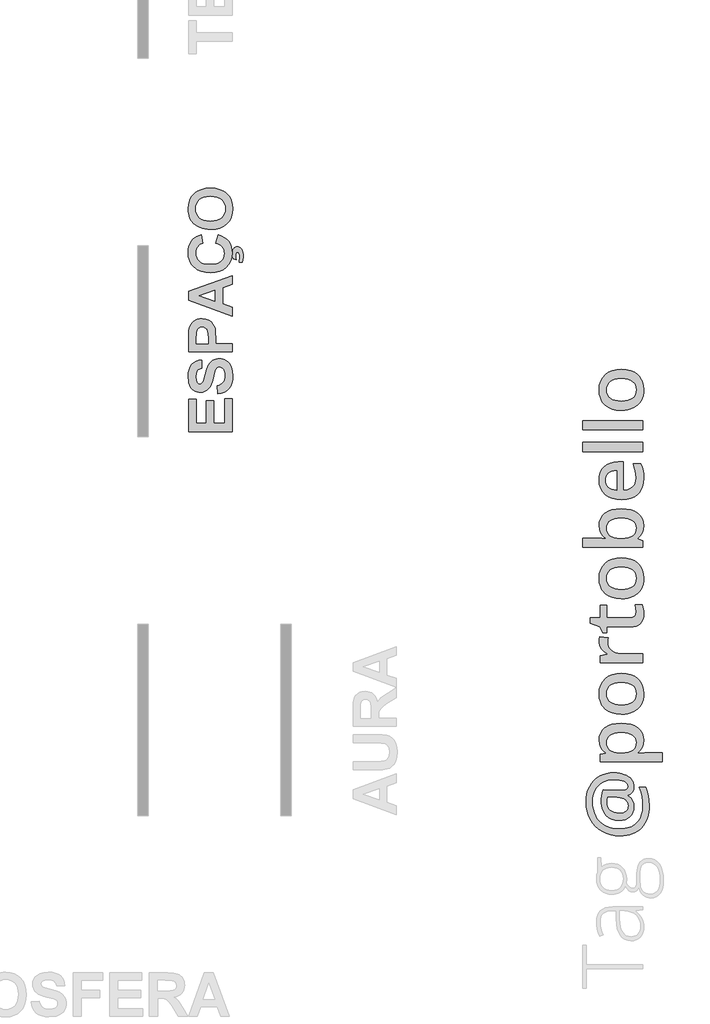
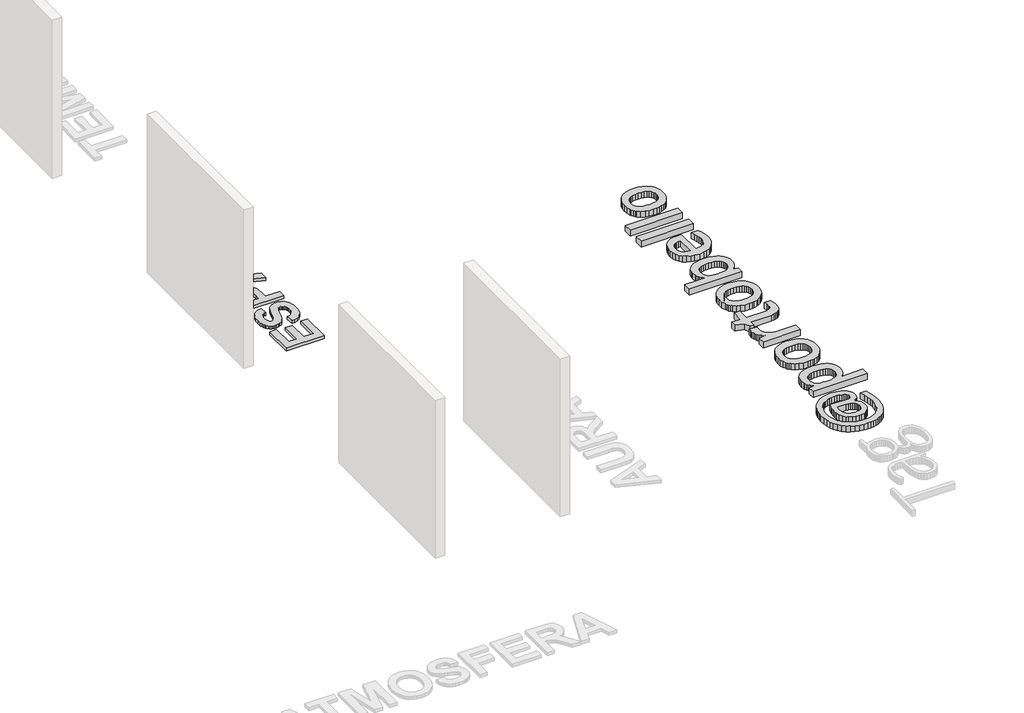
# One storey, part 4 of 9: 3 proxies.
"""IFC4 building model written with IfcOpenShell, lengths in millimetres."""

from ifc_helpers import new_model, si_unit, origin, origin_with_axes, place, context, project, spatial, polyline, outline, extrude, element, save

model = new_model("IFC4")

# Units and contexts
model_context = context("Model", 3, world=origin())
ifc_project = project(units=[si_unit("LENGTHUNIT", "METRE", prefix="MILLI")], contexts=[model_context])

# Site, building, storey
site = spatial("IfcSite", under=ifc_project)
building = spatial("IfcBuilding", under=site)
storey = spatial("IfcBuildingStorey", under=building, Name="PORTOBELLO - SHOWROOM", Elevation=0.0)

# Proxies
placement = place(None, origin())
element("IfcBuildingElementProxy", 1, Name="600mm Arial", ObjectType="600mm Arial", at=placement, inside=storey, context=model_context, shape_type="SweptSolid", body=[
    extrude(outline(polyline([(129012.9424461, -4431.5860734), (128400.7868062, -4431.5860734), (128400.7868062, -3974.8985325), (128507.6711243, -3974.8985325), (128507.6711243, -4314.9849991), (128643.7057109, -4314.9849991), (128643.7057109, -3994.3320449), (128750.590029, -3994.3320449), (128750.590029, -4314.9849991), (128906.0581281, -4314.9849991), (128906.0581281, -3965.1817763), (129012.9424461, -3965.1817763), (129012.9424461, -4431.5860734)])), origin_with_axes(), (0.0, 0.0, 1.0), 50.0),
    extrude(outline(polyline([(128808.8905662, -3897.164483), (128799.17381, -3780.5634087), (128827.2423303, -3773.503578), (128851.3254623, -3763.5590854), (128871.4232061, -3750.7299307), (128887.5355616, -3735.0161141), (128899.8902652, -3716.3701903), (128908.7150536, -3694.7447144), (128914.0099266, -3670.1396862), (128915.7748842, -3642.5551059), (128914.2139405, -3613.5661507), (128909.5311093, -3588.3917814), (128901.7263906, -3567.031998), (128890.7997843, -3549.4868005), (128877.7855938, -3535.8036341), (128863.7181221, -3526.0299438), (128848.5973692, -3520.1657296), (128832.423335, -3518.2109916), (128812.5912838, -3521.4562363), (128795.9095872, -3531.1919705), (128781.8089039, -3549.0503056), (128769.7198928, -3576.663353), (128743.7579348, -3677.7783471), (128731.0900935, -3724.7110386), (128716.9229871, -3764.0904705), (128701.2566155, -3795.9166426), (128684.0909788, -3820.189555), (128657.5122346, -3845.3639243), (128628.1816747, -3863.3456167), (128596.099299, -3874.1346321), (128561.2651076, -3877.7309706), (128538.339636, -3876.0798812), (128516.1732859, -3871.1266129), (128494.7660574, -3862.8711657), (128474.1179505, -3851.3135397), (128455.0545099, -3836.6435152), (128438.4012803, -3819.0508727), (128424.1582617, -3798.535612), (128412.3254541, -3775.0977333), (128403.0262148, -3748.9175279), (128396.383901, -3720.1752872), (128391.07005, -3655.0046998), (128394.3817179, -3601.0928343), (128404.3167215, -3554.2882445), (128420.8750609, -3514.5909305), (128444.0567361, -3482.0008923), (128472.7610207, -3456.4137507), (128505.8871886, -3437.7251263), (128543.4352396, -3425.9350193), (128585.4051738, -3421.0434297), (128585.4051738, -3537.6445039), (128563.7369973, -3542.9156544), (128545.3425325, -3550.5305927), (128530.2217796, -3560.4893189), (128518.3747385, -3572.791833), (128509.4408264, -3587.950542), (128503.0594607, -3606.477853), (128497.9543681, -3653.638281), (128503.3820873, -3703.2848321), (128510.1667364, -3723.5533782), (128519.6652452, -3740.785438), (128535.9863591, -3756.0437817), (128557.0140268, -3761.1298963), (128576.865056, -3756.4992547), (128593.6036868, -3742.6073298), (128603.3251875, -3726.6420542), (128613.2080015, -3702.278996), (128633.4575696, -3628.3595324), (128654.5231934, -3549.4678225), (128676.5756752, -3494.2227497), (128703.2777767, -3455.5075493), (128738.2922595, -3426.2054564), (128759.0257675, -3415.444908), (128782.0556184, -3407.7588021), (128807.381812, -3403.1471385), (128835.0043484, -3401.6099173), (128860.7006138, -3403.4270646), (128885.5618455, -3408.8785064), (128909.5880434, -3417.9642428), (128932.7792076, -3430.6842737), (128954.0915459, -3446.730206), (128972.4812661, -3465.7936466), (128987.9483682, -3487.8745955), (129000.4928523, -3512.9730527), (129010.1906304, -3541.2171199), (129017.1176148, -3572.7348989), (129022.6592023, -3645.5915922), (129019.2478997, -3700.0775435), (129009.013992, -3747.8452687), (128991.957479, -3788.894768), (128968.0783609, -3823.2260413), (128937.6613082, -3851.0763142), (128900.9909915, -3872.6828121), (128858.0674108, -3888.045535), (128808.8905662, -3897.164483)])), origin_with_axes(), (0.0, 0.0, 1.0), 50.0),
    extrude(outline(polyline([(129012.9424461, -3304.4423554), (128400.7868062, -3304.4423554), (128400.7868062, -3107.2225696), (128403.0641709, -3014.5717811), (128409.8962651, -2961.0157538), (128418.744776, -2935.8935741), (128431.6261202, -2912.9064238), (128448.5402979, -2892.054303), (128469.4873089, -2873.3372116), (128494.1160596, -2857.893832), (128522.0754562, -2846.8628466), (128553.3654987, -2840.2442553), (128587.9861871, -2838.0380583), (128639.5495203, -2843.219063), (128661.9863074, -2849.695319), (128682.1931749, -2858.7620773), (128716.2777337, -2882.2948462), (128742.1637795, -2911.4451148), (128760.2878072, -2943.6508477), (128771.0863116, -2976.3500097), (128777.5768011, -3031.1965436), (128779.7402976, -3106.1597994), (128779.7402976, -3187.8412811), (129012.9424461, -3187.8412811), (129012.9424461, -3304.4423554)]), holes=[polyline([(128507.6711243, -3187.8412811), (128672.8559795, -3187.8412811), (128672.8559795, -3115.4210826), (128670.5786148, -3050.1935611), (128663.7465206, -3010.8900414), (128652.0370702, -2987.3952286), (128635.1276371, -2969.5938276), (128614.0430353, -2958.3778063), (128589.8080789, -2954.6391325), (128560.8475908, -2959.8960495), (128537.4286901, -2975.6668002), (128520.6521032, -2999.4462836), (128511.6185565, -3028.7293985), (128507.6711243, -3123.9232443), (128507.6711243, -3187.8412811)])]), origin_with_axes(), (0.0, 0.0, 1.0), 50.0),
    extrude(outline(polyline([(129012.9424461, -2225.8824183), (129012.9424461, -2348.4046409), (128876.9078595, -2396.3811246), (128876.9078595, -2627.609557), (129012.9424461, -2674.9787434), (129012.9424461, -2799.1710335), (128400.7868062, -2575.6856411), (128400.7868062, -2451.4933511), (129012.9424461, -2225.8824183)]), holes=[polyline([(128770.0235414, -2433.7299062), (128546.538149, -2512.5267259), (128770.0235414, -2590.2607754), (128770.0235414, -2433.7299062)])]), origin_with_axes(), (0.0, 0.0, 1.0), 50.0),
    extrude(outline(polyline([(128779.7402976, -1769.1948773), (128818.6073223, -1652.5938031), (128864.7097246, -1668.6966695), (128904.4829508, -1689.3732435), (128937.9270008, -1714.623525), (128965.0418746, -1744.4475139), (128985.9983747, -1778.7218531), (129000.9673033, -1817.3231854), (129009.9486604, -1860.2515106), (129012.9424461, -1907.5068287), (129007.8278645, -1965.8927671), (128992.4841196, -2018.8320081), (128966.9112115, -2066.3245517), (128931.1091401, -2108.3703981), (128886.4348353, -2142.7775836), (128834.2452268, -2167.3541447), (128774.5403148, -2182.1000813), (128707.3200991, -2187.0153935), (128636.4371218, -2182.0573807), (128573.942438, -2167.1833423), (128519.8360475, -2142.3932783), (128495.9284624, -2126.2797367), (128474.1179505, -2107.6871887), (128437.784494, -2064.8964543), (128411.8320251, -2015.8524559), (128396.2605438, -1960.5551935), (128391.07005, -1899.0046671), (128395.3495979, -1845.1829472), (128408.1882415, -1796.6750784), (128429.585981, -1753.4810607), (128459.5428163, -1715.600894), (128481.9463918, -1695.8922), (128508.7718505, -1678.8214536), (128540.0191925, -1664.3886546), (128575.6884176, -1652.5938031), (128595.12193, -1769.1948773), (128573.7668911, -1776.5441231), (128554.7935962, -1787.0532125), (128538.2020452, -1800.7221454), (128523.9922382, -1817.5509218), (128512.60067, -1836.9512226), (128504.4638356, -1858.3347286), (128499.5817349, -1881.7014396), (128497.9543681, -1907.0513558), (128500.9101977, -1941.7005113), (128509.7776866, -1972.9241307), (128524.5568348, -2000.7222139), (128545.2476423, -2025.0947611), (128572.5522966, -2044.9220678), (128607.172985, -2059.0844297), (128649.1097076, -2067.5818469), (128698.3624645, -2070.4143192), (128750.4951388, -2067.667248), (128794.5431683, -2059.4260344), (128830.5065531, -2045.6906784), (128858.385293, -2026.4611799), (128879.2421583, -2002.8287763), (128894.1399193, -1975.8847048), (128903.0785759, -1945.6289655), (128906.0581281, -1912.0615582), (128904.1555796, -1887.0722248), (128898.4479342, -1863.8763161), (128888.935192, -1842.4738321), (128875.6173528, -1822.8647729), (128858.2097461, -1805.4761442), (128836.4277014, -1790.7349521), (128810.2712185, -1778.6411965), (128779.7402976, -1769.1948773)])), origin_with_axes(), (0.0, 0.0, 1.0), 50.0),
    extrude(outline(polyline([(129158.693789, -2041.2640507), (129115.2720348, -2041.2640507), (129119.8267642, -1963.3781768), (129117.2077948, -1931.4950706), (129109.3508865, -1909.0250719), (129100.3173397, -1898.8907988), (129089.0064282, -1895.5127078), (129078.6444187, -1898.7199965), (129069.7247401, -1908.3418625), (129063.5758554, -1924.7199105), (129061.5262271, -1948.1957453), (129063.5758554, -1974.9547809), (129069.7247401, -2002.3970259), (129025.39204, -1991.7693238), (129016.0548446, -1958.4059305), (129012.9424461, -1922.6892603), (129018.1993631, -1877.4076582), (129024.7705092, -1859.4069878), (129033.9701138, -1844.4997378), (129045.0580334, -1832.8092655), (129057.2941243, -1824.4589282), (129070.6783866, -1819.4487258), (129085.2108203, -1817.7786583), (129101.1998185, -1819.6195281), (129115.6136395, -1825.1421376), (129128.4522832, -1834.3464867), (129139.7157496, -1847.2325755), (129152.2697226, -1869.2755683), (129161.2368463, -1895.6265761), (129166.6171205, -1926.2855988), (129168.4105452, -1961.2526364), (129165.9813561, -2007.748833), (129158.693789, -2041.2640507)])), origin_with_axes(), (0.0, 0.0, 1.0), 50.0),
    extrude(outline(polyline([(128710.660234, -1574.8597535), (128665.8530829, -1573.142241), (128624.8035836, -1567.9897033), (128587.5117362, -1559.4021404), (128553.9775405, -1547.3795524), (128509.7397306, -1523.1445961), (128470.2464305, -1491.4322922), (128437.9268293, -1454.292269), (128415.2101161, -1413.7741548), (128404.6488372, -1384.6049082), (128397.1050665, -1353.2721651), (128392.5788041, -1319.7759255), (128391.07005, -1284.1161894), (128396.3032444, -1221.0142083), (128412.0028275, -1164.554541), (128438.1687993, -1114.7371875), (128474.80116, -1071.5621478), (128496.7551932, -1052.8806402), (128520.7517379, -1036.6900003), (128574.8723619, -1011.7813236), (128637.1630318, -996.8361175), (128707.6237477, -991.8543821), (128777.6052681, -996.7981614), (128839.5211218, -1011.6294992), (128893.3713087, -1036.3483956), (128917.2717771, -1052.4156782), (128939.1558288, -1070.9548505), (128975.6885547, -1113.8452196), (129001.783359, -1163.4158586), (129017.4402415, -1219.6667675), (129022.6592023, -1282.5979463), (129017.463964, -1346.1933564), (129001.8782492, -1402.9187163), (128975.9020577, -1452.7740259), (128939.5353896, -1495.7592852), (128894.0592626, -1530.3657401), (128840.7546944, -1555.0846365), (128779.6216848, -1569.9159743), (128710.660234, -1574.8597535)]), holes=[polyline([(128706.4091532, -1458.2586793), (128754.8316208, -1455.1605143), (128797.0103135, -1445.8660195), (128832.9452311, -1430.3751948), (128862.6363738, -1408.6880403), (128885.8844721, -1382.2279088), (128902.4902566, -1352.4181533), (128912.4537273, -1319.2587739), (128915.7748842, -1282.7497706), (128912.4774499, -1246.2787233), (128902.5851468, -1213.2332121), (128886.0979751, -1183.6132371), (128863.0159346, -1157.4187982), (128833.3390255, -1135.9973362), (128797.0672476, -1120.6962919), (128754.200601, -1111.5156653), (128704.7390857, -1108.4554564), (128655.9655244, -1111.4350086), (128613.7963208, -1120.3736652), (128578.2314749, -1135.2714261), (128549.2709867, -1156.1282915), (128526.819966, -1181.9194471), (128510.7835227, -1211.6200788), (128501.1616567, -1245.2301866), (128497.9543681, -1282.7497706), (128501.1996128, -1320.3073106), (128510.935347, -1354.0312867), (128527.1615708, -1383.9216988), (128549.878284, -1409.9785469), (128579.1329317, -1431.1011048), (128614.9729592, -1446.1886462), (128657.3983664, -1455.241171), (128706.4091532, -1458.2586793)])]), origin_with_axes(), (0.0, 0.0, 1.0), 50.0),
])
element("IfcBuildingElementProxy", 2, Name="600mm Arial", ObjectType="600mm Arial", at=placement, inside=storey, context=model_context, shape_type="SweptSolid", body=[
    extrude(outline(polyline([(129012.9424461, -4431.5860734), (128400.7868062, -4431.5860734), (128400.7868062, -3974.8985325), (128507.6711243, -3974.8985325), (128507.6711243, -4314.9849991), (128643.7057109, -4314.9849991), (128643.7057109, -3994.3320449), (128750.590029, -3994.3320449), (128750.590029, -4314.9849991), (128906.0581281, -4314.9849991), (128906.0581281, -3965.1817763), (129012.9424461, -3965.1817763), (129012.9424461, -4431.5860734)])), origin_with_axes(), (0.0, 0.0, 1.0), 50.0),
    extrude(outline(polyline([(128808.8905662, -3897.164483), (128799.17381, -3780.5634087), (128827.2423303, -3773.503578), (128851.3254623, -3763.5590854), (128871.4232061, -3750.7299307), (128887.5355616, -3735.0161141), (128899.8902652, -3716.3701903), (128908.7150536, -3694.7447144), (128914.0099266, -3670.1396862), (128915.7748842, -3642.5551059), (128914.2139405, -3613.5661507), (128909.5311093, -3588.3917814), (128901.7263906, -3567.031998), (128890.7997843, -3549.4868005), (128877.7855938, -3535.8036341), (128863.7181221, -3526.0299438), (128848.5973692, -3520.1657296), (128832.423335, -3518.2109916), (128812.5912838, -3521.4562363), (128795.9095872, -3531.1919705), (128781.8089039, -3549.0503056), (128769.7198928, -3576.663353), (128743.7579348, -3677.7783471), (128731.0900935, -3724.7110386), (128716.9229871, -3764.0904705), (128701.2566155, -3795.9166426), (128684.0909788, -3820.189555), (128657.5122346, -3845.3639243), (128628.1816747, -3863.3456167), (128596.099299, -3874.1346321), (128561.2651076, -3877.7309706), (128538.339636, -3876.0798812), (128516.1732859, -3871.1266129), (128494.7660574, -3862.8711657), (128474.1179505, -3851.3135397), (128455.0545099, -3836.6435152), (128438.4012803, -3819.0508727), (128424.1582617, -3798.535612), (128412.3254541, -3775.0977333), (128403.0262148, -3748.9175279), (128396.383901, -3720.1752872), (128391.07005, -3655.0046998), (128394.3817179, -3601.0928343), (128404.3167215, -3554.2882445), (128420.8750609, -3514.5909305), (128444.0567361, -3482.0008923), (128472.7610207, -3456.4137507), (128505.8871886, -3437.7251263), (128543.4352396, -3425.9350193), (128585.4051738, -3421.0434297), (128585.4051738, -3537.6445039), (128563.7369973, -3542.9156544), (128545.3425325, -3550.5305927), (128530.2217796, -3560.4893189), (128518.3747385, -3572.791833), (128509.4408264, -3587.950542), (128503.0594607, -3606.477853), (128497.9543681, -3653.638281), (128503.3820873, -3703.2848321), (128510.1667364, -3723.5533782), (128519.6652452, -3740.785438), (128535.9863591, -3756.0437817), (128557.0140268, -3761.1298963), (128576.865056, -3756.4992547), (128593.6036868, -3742.6073298), (128603.3251875, -3726.6420542), (128613.2080015, -3702.278996), (128633.4575696, -3628.3595324), (128654.5231934, -3549.4678225), (128676.5756752, -3494.2227497), (128703.2777767, -3455.5075493), (128738.2922595, -3426.2054564), (128759.0257675, -3415.444908), (128782.0556184, -3407.7588021), (128807.381812, -3403.1471385), (128835.0043484, -3401.6099173), (128860.7006138, -3403.4270646), (128885.5618455, -3408.8785064), (128909.5880434, -3417.9642428), (128932.7792076, -3430.6842737), (128954.0915459, -3446.730206), (128972.4812661, -3465.7936466), (128987.9483682, -3487.8745955), (129000.4928523, -3512.9730527), (129010.1906304, -3541.2171199), (129017.1176148, -3572.7348989), (129022.6592023, -3645.5915922), (129019.2478997, -3700.0775435), (129009.013992, -3747.8452687), (128991.957479, -3788.894768), (128968.0783609, -3823.2260413), (128937.6613082, -3851.0763142), (128900.9909915, -3872.6828121), (128858.0674108, -3888.045535), (128808.8905662, -3897.164483)])), origin_with_axes(), (0.0, 0.0, 1.0), 50.0),
    extrude(outline(polyline([(129012.9424461, -3304.4423554), (128400.7868062, -3304.4423554), (128400.7868062, -3107.2225696), (128403.0641709, -3014.5717811), (128409.8962651, -2961.0157538), (128418.744776, -2935.8935741), (128431.6261202, -2912.9064238), (128448.5402979, -2892.054303), (128469.4873089, -2873.3372116), (128494.1160596, -2857.893832), (128522.0754562, -2846.8628466), (128553.3654987, -2840.2442553), (128587.9861871, -2838.0380583), (128639.5495203, -2843.219063), (128661.9863074, -2849.695319), (128682.1931749, -2858.7620773), (128716.2777337, -2882.2948462), (128742.1637795, -2911.4451148), (128760.2878072, -2943.6508477), (128771.0863116, -2976.3500097), (128777.5768011, -3031.1965436), (128779.7402976, -3106.1597994), (128779.7402976, -3187.8412811), (129012.9424461, -3187.8412811), (129012.9424461, -3304.4423554)]), holes=[polyline([(128507.6711243, -3187.8412811), (128672.8559795, -3187.8412811), (128672.8559795, -3115.4210826), (128670.5786148, -3050.1935611), (128663.7465206, -3010.8900414), (128652.0370702, -2987.3952286), (128635.1276371, -2969.5938276), (128614.0430353, -2958.3778063), (128589.8080789, -2954.6391325), (128560.8475908, -2959.8960495), (128537.4286901, -2975.6668002), (128520.6521032, -2999.4462836), (128511.6185565, -3028.7293985), (128507.6711243, -3123.9232443), (128507.6711243, -3187.8412811)])]), origin_with_axes(), (0.0, 0.0, 1.0), 50.0),
    extrude(outline(polyline([(129012.9424461, -2225.8824183), (129012.9424461, -2348.4046409), (128876.9078595, -2396.3811246), (128876.9078595, -2627.609557), (129012.9424461, -2674.9787434), (129012.9424461, -2799.1710335), (128400.7868062, -2575.6856411), (128400.7868062, -2451.4933511), (129012.9424461, -2225.8824183)]), holes=[polyline([(128770.0235414, -2433.7299062), (128546.538149, -2512.5267259), (128770.0235414, -2590.2607754), (128770.0235414, -2433.7299062)])]), origin_with_axes(), (0.0, 0.0, 1.0), 50.0),
    extrude(outline(polyline([(128779.7402976, -1769.1948773), (128818.6073223, -1652.5938031), (128864.7097246, -1668.6966695), (128904.4829508, -1689.3732435), (128937.9270008, -1714.623525), (128965.0418746, -1744.4475139), (128985.9983747, -1778.7218531), (129000.9673033, -1817.3231854), (129009.9486604, -1860.2515106), (129012.9424461, -1907.5068287), (129007.8278645, -1965.8927671), (128992.4841196, -2018.8320081), (128966.9112115, -2066.3245517), (128931.1091401, -2108.3703981), (128886.4348353, -2142.7775836), (128834.2452268, -2167.3541447), (128774.5403148, -2182.1000813), (128707.3200991, -2187.0153935), (128636.4371218, -2182.0573807), (128573.942438, -2167.1833423), (128519.8360475, -2142.3932783), (128495.9284624, -2126.2797367), (128474.1179505, -2107.6871887), (128437.784494, -2064.8964543), (128411.8320251, -2015.8524559), (128396.2605438, -1960.5551935), (128391.07005, -1899.0046671), (128395.3495979, -1845.1829472), (128408.1882415, -1796.6750784), (128429.585981, -1753.4810607), (128459.5428163, -1715.600894), (128481.9463918, -1695.8922), (128508.7718505, -1678.8214536), (128540.0191925, -1664.3886546), (128575.6884176, -1652.5938031), (128595.12193, -1769.1948773), (128573.7668911, -1776.5441231), (128554.7935962, -1787.0532125), (128538.2020452, -1800.7221454), (128523.9922382, -1817.5509218), (128512.60067, -1836.9512226), (128504.4638356, -1858.3347286), (128499.5817349, -1881.7014396), (128497.9543681, -1907.0513558), (128500.9101977, -1941.7005113), (128509.7776866, -1972.9241307), (128524.5568348, -2000.7222139), (128545.2476423, -2025.0947611), (128572.5522966, -2044.9220678), (128607.172985, -2059.0844297), (128649.1097076, -2067.5818469), (128698.3624645, -2070.4143192), (128750.4951388, -2067.667248), (128794.5431683, -2059.4260344), (128830.5065531, -2045.6906784), (128858.385293, -2026.4611799), (128879.2421583, -2002.8287763), (128894.1399193, -1975.8847048), (128903.0785759, -1945.6289655), (128906.0581281, -1912.0615582), (128904.1555796, -1887.0722248), (128898.4479342, -1863.8763161), (128888.935192, -1842.4738321), (128875.6173528, -1822.8647729), (128858.2097461, -1805.4761442), (128836.4277014, -1790.7349521), (128810.2712185, -1778.6411965), (128779.7402976, -1769.1948773)])), origin_with_axes(), (0.0, 0.0, 1.0), 50.0),
    extrude(outline(polyline([(129158.693789, -2041.2640507), (129115.2720348, -2041.2640507), (129119.8267642, -1963.3781768), (129117.2077948, -1931.4950706), (129109.3508865, -1909.0250719), (129100.3173397, -1898.8907988), (129089.0064282, -1895.5127078), (129078.6444187, -1898.7199965), (129069.7247401, -1908.3418625), (129063.5758554, -1924.7199105), (129061.5262271, -1948.1957453), (129063.5758554, -1974.9547809), (129069.7247401, -2002.3970259), (129025.39204, -1991.7693238), (129016.0548446, -1958.4059305), (129012.9424461, -1922.6892603), (129018.1993631, -1877.4076582), (129024.7705092, -1859.4069878), (129033.9701138, -1844.4997378), (129045.0580334, -1832.8092655), (129057.2941243, -1824.4589282), (129070.6783866, -1819.4487258), (129085.2108203, -1817.7786583), (129101.1998185, -1819.6195281), (129115.6136395, -1825.1421376), (129128.4522832, -1834.3464867), (129139.7157496, -1847.2325755), (129152.2697226, -1869.2755683), (129161.2368463, -1895.6265761), (129166.6171205, -1926.2855988), (129168.4105452, -1961.2526364), (129165.9813561, -2007.748833), (129158.693789, -2041.2640507)])), origin_with_axes(), (0.0, 0.0, 1.0), 50.0),
    extrude(outline(polyline([(128710.660234, -1574.8597535), (128665.8530829, -1573.142241), (128624.8035836, -1567.9897033), (128587.5117362, -1559.4021404), (128553.9775405, -1547.3795524), (128509.7397306, -1523.1445961), (128470.2464305, -1491.4322922), (128437.9268293, -1454.292269), (128415.2101161, -1413.7741548), (128404.6488372, -1384.6049082), (128397.1050665, -1353.2721651), (128392.5788041, -1319.7759255), (128391.07005, -1284.1161894), (128396.3032444, -1221.0142083), (128412.0028275, -1164.554541), (128438.1687993, -1114.7371875), (128474.80116, -1071.5621478), (128496.7551932, -1052.8806402), (128520.7517379, -1036.6900003), (128574.8723619, -1011.7813236), (128637.1630318, -996.8361175), (128707.6237477, -991.8543821), (128777.6052681, -996.7981614), (128839.5211218, -1011.6294992), (128893.3713087, -1036.3483956), (128917.2717771, -1052.4156782), (128939.1558288, -1070.9548505), (128975.6885547, -1113.8452196), (129001.783359, -1163.4158586), (129017.4402415, -1219.6667675), (129022.6592023, -1282.5979463), (129017.463964, -1346.1933564), (129001.8782492, -1402.9187163), (128975.9020577, -1452.7740259), (128939.5353896, -1495.7592852), (128894.0592626, -1530.3657401), (128840.7546944, -1555.0846365), (128779.6216848, -1569.9159743), (128710.660234, -1574.8597535)]), holes=[polyline([(128706.4091532, -1458.2586793), (128754.8316208, -1455.1605143), (128797.0103135, -1445.8660195), (128832.9452311, -1430.3751948), (128862.6363738, -1408.6880403), (128885.8844721, -1382.2279088), (128902.4902566, -1352.4181533), (128912.4537273, -1319.2587739), (128915.7748842, -1282.7497706), (128912.4774499, -1246.2787233), (128902.5851468, -1213.2332121), (128886.0979751, -1183.6132371), (128863.0159346, -1157.4187982), (128833.3390255, -1135.9973362), (128797.0672476, -1120.6962919), (128754.200601, -1111.5156653), (128704.7390857, -1108.4554564), (128655.9655244, -1111.4350086), (128613.7963208, -1120.3736652), (128578.2314749, -1135.2714261), (128549.2709867, -1156.1282915), (128526.819966, -1181.9194471), (128510.7835227, -1211.6200788), (128501.1616567, -1245.2301866), (128497.9543681, -1282.7497706), (128501.1996128, -1320.3073106), (128510.935347, -1354.0312867), (128527.1615708, -1383.9216988), (128549.878284, -1409.9785469), (128579.1329317, -1431.1011048), (128614.9729592, -1446.1886462), (128657.3983664, -1455.241171), (128706.4091532, -1458.2586793)])]), origin_with_axes(), (0.0, 0.0, 1.0), 50.0),
])
element("IfcBuildingElementProxy", 3, Name="80mm OpenSans Bold", ObjectType="80mm OpenSans Bold", at=placement, inside=storey, context=model_context, shape_type="SweptSolid", body=[
    extrude(outline(polyline([(134409.9362076, -9249.9050274), (134448.0418223, -9251.4523873), (134484.4798938, -9256.0944669), (134519.2504222, -9263.8312662), (134552.3534074, -9274.6627853), (134582.8348945, -9288.3035888), (134609.7409288, -9304.4682415), (134633.0715101, -9323.1567432), (134652.8266386, -9344.369094), (134668.5481153, -9367.7146983), (134679.7777416, -9392.8029603), (134686.5155173, -9419.63388), (134688.7614425, -9448.2074574), (134683.0527362, -9488.8294097), (134675.9168533, -9506.9770867), (134665.9266173, -9523.6825641), (134653.5026696, -9538.3599485), (134639.0656518, -9550.4233463), (134622.6155638, -9559.8727576), (134604.1524057, -9566.7081822), (134604.1524057, -9573.4384465), (134641.1688593, -9603.6044526), (134667.6091833, -9640.2603563), (134683.4733777, -9682.6249663), (134688.7614425, -9729.9170913), (134685.208524, -9772.5821596), (134674.5497684, -9810.4398962), (134656.7851757, -9843.4903012), (134631.9147459, -9871.7333746), (134600.97506, -9894.3428562), (134565.0026987, -9910.4924859), (134523.9976622, -9920.1822637), (134477.9599503, -9923.4121897), (134424.8164013, -9919.1306599), (134376.9158484, -9906.2860707), (134334.2582916, -9884.878422), (134296.8437309, -9854.9077139), (134266.399801, -9817.7260082), (134244.6541368, -9774.6853672), (134231.6067383, -9725.7857907), (134227.2576054, -9671.0272788), (134229.0904006, -9626.7096902), (134234.5887862, -9577.8852283), (134243.3321206, -9529.6616828), (134254.8997623, -9487.1468437), (134506.0828404, -9499.4055393), (134518.8222692, -9499.4055393), (134556.6800058, -9495.8000406), (134583.7212463, -9484.9835444), (134593.1856804, -9476.8711723), (134599.9459906, -9466.9560508), (134605.3542387, -9441.7175597), (134601.8914576, -9420.9634076), (134591.5031144, -9402.4476694), (134574.189209, -9386.1703449), (134549.9497415, -9372.1314342), (134520.3470947, -9360.8266934), (134486.9436513, -9352.7518786), (134449.7394113, -9347.9069897), (134408.7343747, -9346.2920267), (134363.6431063, -9348.7107154), (134321.391168, -9355.9667816), (134281.9785601, -9368.0602253), (134245.4052824, -9384.9910464), (134212.2647399, -9406.3836722), (134183.1503377, -9431.8625298), (134158.0620757, -9461.4276194), (134136.999954, -9495.0789409), (134120.3320338, -9532.0803715), (134108.4263765, -9571.6957888), (134101.2829822, -9613.9251927), (134098.9018507, -9658.7685831), (134101.8914101, -9715.7429744), (134110.8600882, -9768.8865234), (134125.807885, -9818.1992299), (134146.7348005, -9863.6810941), (134173.2126818, -9904.6711078), (134204.8133759, -9940.5082628), (134241.5368827, -9971.1925593), (134283.3832023, -9996.7239971), (134329.5711433, -10016.8096296), (134379.3195143, -10031.15651), (134432.6283152, -10039.7646382), (134489.4975462, -10042.6340143), (134563.6731711, -10037.2783464), (134628.7599346, -10021.2113427), (134657.8949933, -10009.1610899), (134684.7578367, -9994.4330032), (134709.3484647, -9977.0270825), (134731.6668774, -9956.9433278), (134751.5252884, -9934.3582585), (134768.7359112, -9909.4483936), (134783.2987459, -9882.2137331), (134795.2137925, -9852.6542772), (134811.1005212, -9786.5609786), (134816.3960975, -9711.1684979), (134813.3013778, -9649.454378), (134804.0172185, -9586.418242), (134788.5436198, -9522.0600897), (134766.8805816, -9456.3799212), (134857.0180498, -9456.3799212), (134877.6294842, -9515.6002378), (134892.3519374, -9577.4044951), (134901.1854092, -9641.7926932), (134904.1298999, -9708.7648321), (134902.4341887, -9758.3798747), (134897.3470554, -9805.1893887), (134888.8684998, -9849.1933739), (134876.9985219, -9890.3918305), (134861.7371219, -9928.7847584), (134843.0842995, -9964.3721575), (134821.040055, -9997.154028), (134795.6043882, -10027.1303697), (134767.1340933, -10053.9180986), (134735.9859644, -10077.1341302), (134702.1600016, -10096.7784647), (134665.6562049, -10112.851102), (134626.4745742, -10125.3520421), (134584.6151095, -10134.281285), (134540.0778109, -10139.6388308), (134492.8626784, -10141.4246794), (134423.7948434, -10137.5637912), (134358.6479882, -10125.9811265), (134297.422113, -10106.6766854), (134240.1172176, -10079.6504679), (134188.0177609, -10045.7738027), (134142.408202, -10005.9180189), (134103.2885409, -9960.0831163), (134070.6587774, -9908.269095), (134044.9470646, -9851.6477421), (134026.5815554, -9791.3908446), (134015.5622499, -9727.4984026), (134011.8891481, -9659.970416), (134014.953822, -9601.749123), (134024.1478438, -9546.7878018), (134039.4712134, -9495.0864523), (134060.9239308, -9446.6450746), (134088.0402858, -9402.4626923), (134120.3545682, -9363.5383289), (134157.8667778, -9329.8719846), (134200.5769149, -9301.4636592), (134247.6436962, -9278.9067578), (134298.2258387, -9262.7946853), (134352.3233425, -9253.1274419), (134409.9362076, -9249.9050274)]), holes=[polyline([(134479.8828829, -9818.1316268), (134509.2902319, -9816.542954), (134534.7766011, -9811.7769353), (134556.3419903, -9803.8335709), (134573.9863997, -9792.7128608), (134587.7098293, -9778.4148049), (134597.5122789, -9760.9394033), (134603.3937487, -9740.2866559), (134605.3542387, -9716.4565627), (134602.8904812, -9691.1730029), (134595.4992088, -9668.9240712), (134583.1804215, -9649.7097675), (134565.9341192, -9633.530092), (134543.7603021, -9620.3850445), (134516.65897, -9610.2746252), (134484.6301229, -9603.1988339), (134447.673761, -9599.1576708), (134319.0776397, -9592.4274065), (134312.2271921, -9628.7227604), (134309.9437096, -9667.42178), (134312.8055742, -9701.0355442), (134321.391168, -9730.7283285), (134335.7004911, -9756.500133), (134355.7335434, -9778.3509575), (134380.6640648, -9795.7550004), (134409.6657952, -9808.1864595), (134442.7387346, -9815.645335), (134479.8828829, -9818.1316268)])]), origin_with_axes(), (0.0, 0.0, 1.0), 100.0),
    extrude(outline(polyline([(134827.2125937, -8791.2855893), (134822.0146663, -8844.8422683), (134806.4208844, -8892.0592787), (134780.4312477, -8932.9366205), (134744.0457564, -8967.4742937), (134744.0457564, -8975.1660244), (134838.0290899, -8967.4742937), (135088.7314347, -8967.4742937), (135088.7314347, -9096.3107816), (134211.8741442, -9096.3107816), (134211.8741442, -8991.9916851), (134289.031817, -8973.9641914), (134289.031817, -8967.4742937), (134267.3424887, -8951.6439009), (134248.5450708, -8933.9581785), (134232.6395634, -8914.4171265), (134219.6259665, -8893.020745), (134209.5042799, -8869.769034), (134202.2745038, -8844.6619933), (134196.490683, -8788.8819234), (134201.651053, -8736.07639), (134217.1321632, -8689.4302502), (134242.9340134, -8648.9435041), (134279.0566038, -8614.6161516), (134324.4933992, -8587.2744529), (134378.2378646, -8567.7446682), (134440.29, -8556.0267973), (134510.6498054, -8552.1208403), (134581.1823743, -8556.0944004), (134643.5124335, -8568.0150806), (134697.6399832, -8587.8828808), (134743.5650232, -8615.6978012), (134780.1608353, -8650.5133983), (134806.3007011, -8691.3832287), (134821.9846205, -8738.3072923), (134827.2125937, -8791.2855893)]), holes=[polyline([(134304.1749116, -8822.7736115), (134306.9691731, -8857.859621), (134315.3519577, -8887.8829093), (134329.3232652, -8912.8434766), (134348.8830958, -8932.7413227), (134374.5722743, -8947.9369975), (134406.9316254, -8958.791051), (134445.9611491, -8965.303483), (134491.6608454, -8967.4742937), (134510.6498054, -8967.4742937), (134561.9981165, -8965.3260174), (134605.7147885, -8958.8811884), (134641.7998216, -8948.1398068), (134670.2532157, -8933.1018725), (134691.8110936, -8913.1814921), (134707.2095777, -8887.7927719), (134716.4486682, -8856.9357119), (134719.528365, -8820.6103122), (134716.1181641, -8789.6856492), (134705.8875615, -8762.5317369), (134688.8365571, -8739.1485754), (134664.9651509, -8719.5361646), (134634.7991449, -8704.0250086), (134598.8643409, -8692.9456115), (134557.160739, -8686.2979732), (134509.6883391, -8684.0820938), (134462.0581986, -8686.2829503), (134420.6024747, -8692.8855198), (134385.3211674, -8703.8898024), (134356.2142766, -8719.295798), (134333.4470544, -8738.9683004), (134317.1847529, -8762.7721035), (134307.4273719, -8790.7072072), (134304.1749116, -8822.7736115)])]), origin_with_axes(), (0.0, 0.0, 1.0), 100.0),
    extrude(outline(polyline([(134510.6498054, -7844.0008903), (134581.1823743, -7848.8082219), (134643.5124335, -7863.2302168), (134697.6399832, -7887.266875), (134743.5650232, -7920.9181964), (134763.1699225, -7941.0902107), (134780.1608353, -7963.1476003), (134794.5377615, -7987.0903653), (134806.3007011, -8012.9185056), (134821.9846205, -8070.2309125), (134827.2125937, -8135.0848209), (134824.8014164, -8176.7358426), (134817.5678846, -8215.8780382), (134805.5119982, -8252.5114075), (134788.6337573, -8286.6359507), (134767.2561544, -8317.6131939), (134741.7021822, -8344.8046635), (134711.9718406, -8368.2103594), (134678.0651297, -8387.8302817), (134640.6055002, -8403.3414376), (134600.216403, -8414.4208348), (134556.897838, -8421.068473), (134510.6498054, -8423.2843525), (134440.6805957, -8418.5145781), (134378.8387811, -8404.205255), (134325.1243615, -8380.3563833), (134279.537337, -8346.9679627), (134260.0732774, -8326.9104982), (134243.2044258, -8304.8962995), (134228.9307822, -8280.9253665), (134217.2523465, -8254.9976994), (134201.6810988, -8197.2721625), (134196.490683, -8131.7196887), (134201.8087936, -8068.8262703), (134217.7631255, -8012.8283682), (134244.3536786, -7963.7259824), (134281.5804529, -7921.5191129), (134327.8059512, -7887.6048905), (134381.392676, -7863.3804459), (134442.3406274, -7848.8457792), (134510.6498054, -7844.0008903)]), holes=[polyline([(134510.6498054, -8290.6019993), (134559.6057178, -8288.1382418), (134602.0341752, -8280.7469694), (134637.9351777, -8268.4281821), (134667.3087251, -8251.1818799), (134690.1548176, -8229.0080627), (134706.473455, -8201.9067306), (134716.2646375, -8169.8778836), (134719.528365, -8132.9215216), (134716.2646375, -8096.3031752), (134706.473455, -8064.5672749), (134690.1548176, -8037.7138209), (134667.3087251, -8015.742813), (134637.9351777, -7998.6542513), (134602.0341752, -7986.4481358), (134559.6057178, -7979.1244665), (134510.6498054, -7976.6832434), (134462.2572522, -7979.1394894), (134420.3170394, -7986.5082275), (134384.829167, -7998.7894575), (134355.7936351, -8015.9831796), (134333.2104436, -8038.0893936), (134317.0795925, -8065.1080997), (134307.4010818, -8097.0392978), (134304.1749116, -8133.882988), (134307.5099979, -8172.2740379), (134317.5152569, -8205.0014503), (134334.1906885, -8232.0652252), (134357.5362928, -8253.4653624), (134387.1164053, -8269.7126411), (134422.4953615, -8281.3178401), (134463.6731616, -8288.2809595), (134510.6498054, -8290.6019993)])]), origin_with_axes(), (0.0, 0.0, 1.0), 100.0),
    extrude(outline(polyline([(134196.490683, -7393.3135493), (134197.8727908, -7358.6406699), (134202.0191143, -7330.5778715), (134322.2024053, -7342.8365671), (134317.154707, -7370.2383575), (134315.472141, -7398.6016141), (134318.6119294, -7434.6566014), (134328.0312949, -7467.10609), (134343.7302372, -7495.9500798), (134365.7087566, -7521.1885709), (134392.7049283, -7541.6948449), (134423.4568279, -7556.3421835), (134457.9644553, -7565.1305866), (134496.2278105, -7568.0600543), (134811.8291324, -7568.0600543), (134811.8291324, -7696.8965422), (134211.8741442, -7696.8965422), (134211.8741442, -7595.9425778), (134314.0299415, -7578.8765505), (134314.0299415, -7572.3866528), (134288.3858318, -7556.5900615), (134265.5359836, -7538.5250106), (134245.4803969, -7518.1915), (134228.2190718, -7495.5895299), (134214.3379017, -7471.3951311), (134204.4227802, -7446.2843348), (134198.4737073, -7420.2571409), (134196.490683, -7393.3135493)])), origin_with_axes(), (0.0, 0.0, 1.0), 100.0),
    extrude(outline(polyline([(134719.528365, -6974.3545972), (134715.8627746, -6926.4615558), (134704.8660035, -6878.4483311), (134804.618135, -6878.4483311), (134813.4516069, -6903.206089), (134820.722696, -6934.213378), (134825.5901193, -6968.9463491), (134827.2125937, -7004.8811531), (134824.1779656, -7048.2598097), (134815.0740813, -7085.8546453), (134799.9009408, -7117.6656602), (134778.6585442, -7143.6928541), (134751.3468913, -7163.9362272), (134717.9659822, -7178.3957794), (134678.515817, -7187.0715107), (134632.9963956, -7189.9634211), (134304.1749116, -7189.9634211), (134304.1749116, -7273.6109916), (134250.0924307, -7273.6109916), (134205.3842465, -7183.9542566), (134073.4229931, -7139.9671721), (134073.4229931, -7060.4058335), (134211.8741442, -7060.4058335), (134211.8741442, -6884.6978622), (134304.1749116, -6884.6978622), (134304.1749116, -7060.4058335), (134628.6697971, -7060.4058335), (134650.3553696, -7058.9260767), (134669.021337, -7054.4868064), (134684.6676992, -7047.0880226), (134697.2944562, -7036.7297252), (134707.0217913, -7023.9527391), (134713.9698878, -7009.297889), (134719.528365, -6974.3545972)])), origin_with_axes(), (0.0, 0.0, 1.0), 100.0),
    extrude(outline(polyline([(134510.6498054, -6213.3539991), (134581.1823743, -6218.1613308), (134643.5124335, -6232.5833257), (134697.6399832, -6256.6199839), (134743.5650232, -6290.2713053), (134763.1699225, -6310.4433195), (134780.1608353, -6332.5007092), (134794.5377615, -6356.4434741), (134806.3007011, -6382.2716145), (134821.9846205, -6439.5840214), (134827.2125937, -6504.4379297), (134824.8014164, -6546.0889515), (134817.5678846, -6585.231147), (134805.5119982, -6621.8645164), (134788.6337573, -6655.9890596), (134767.2561544, -6686.9663028), (134741.7021822, -6714.1577724), (134711.9718406, -6737.5634683), (134678.0651297, -6757.1833905), (134640.6055002, -6772.6945465), (134600.216403, -6783.7739436), (134556.897838, -6790.4215819), (134510.6498054, -6792.6374613), (134440.6805957, -6787.867687), (134378.8387811, -6773.5583639), (134325.1243615, -6749.7094921), (134279.537337, -6716.3210716), (134260.0732774, -6696.2636071), (134243.2044258, -6674.2494083), (134228.9307822, -6650.2784754), (134217.2523465, -6624.3508082), (134201.6810988, -6566.6252713), (134196.490683, -6501.0727976), (134201.8087936, -6438.1793792), (134217.7631255, -6382.181477), (134244.3536786, -6333.0790912), (134281.5804529, -6290.8722218), (134327.8059512, -6256.9579994), (134381.392676, -6232.7335548), (134442.3406274, -6218.198888), (134510.6498054, -6213.3539991)]), holes=[polyline([(134510.6498054, -6659.9551082), (134559.6057178, -6657.4913507), (134602.0341752, -6650.1000783), (134637.9351777, -6637.781291), (134667.3087251, -6620.5349887), (134690.1548176, -6598.3611716), (134706.473455, -6571.2598395), (134716.2646375, -6539.2309924), (134719.528365, -6502.2746305), (134716.2646375, -6465.656284), (134706.473455, -6433.9203838), (134690.1548176, -6407.0669297), (134667.3087251, -6385.0959218), (134637.9351777, -6368.0073602), (134602.0341752, -6355.8012447), (134559.6057178, -6348.4775754), (134510.6498054, -6346.0363523), (134462.2572522, -6348.4925983), (134420.3170394, -6355.8613363), (134384.829167, -6368.1425664), (134355.7936351, -6385.3362884), (134333.2104436, -6407.4425025), (134317.0795925, -6434.4612086), (134307.4010818, -6466.3924067), (134304.1749116, -6503.2360968), (134307.5099979, -6541.6271468), (134317.5152569, -6574.3545592), (134334.1906885, -6601.418334), (134357.5362928, -6622.8184713), (134387.1164053, -6639.0657499), (134422.4953615, -6650.6709489), (134463.6731616, -6657.6340684), (134510.6498054, -6659.9551082)])]), origin_with_axes(), (0.0, 0.0, 1.0), 100.0),
    extrude(outline(polyline([(134196.490683, -5758.3400597), (134201.651053, -5705.5345263), (134217.1321632, -5658.8883865), (134242.9340134, -5618.4016404), (134279.0566038, -5584.0742879), (134324.4933992, -5556.7325892), (134378.2378646, -5537.2028044), (134440.29, -5525.4849336), (134510.6498054, -5521.5789766), (134581.3776721, -5525.5300023), (134643.8128917, -5537.3830794), (134697.9554643, -5557.1382078), (134743.8053898, -5584.7953876), (134780.2960415, -5619.48329), (134806.3607927, -5660.330586), (134821.9996434, -5707.3372756), (134827.2125937, -5760.503359), (134822.0146663, -5814.1651984), (134806.4208844, -5861.4573233), (134780.4312477, -5902.3797339), (134744.0457564, -5936.93243), (134744.0457564, -5945.585627), (134811.8291324, -5969.141552), (134811.8291324, -6065.7689179), (133965.7387644, -6065.7689179), (133965.7387644, -5936.93243), (134165.7237605, -5936.93243), (134231.7043872, -5939.0957293), (134287.3492509, -5942.2204948), (134287.3492509, -5936.93243), (134266.054274, -5920.8917164), (134247.5986274, -5903.0557649), (134231.9823111, -5883.4245755), (134219.2053249, -5861.9981481), (134209.2676691, -5838.7764829), (134202.1693435, -5813.7595797), (134196.490683, -5758.3400597)]), holes=[polyline([(134304.1749116, -5792.2317478), (134307.0217533, -5827.775956), (134315.5622784, -5857.9720079), (134329.796487, -5882.8199033), (134349.7243789, -5902.3196422), (134376.3224434, -5917.102187), (134410.5671699, -5927.7984999), (134452.4585582, -5934.4085809), (134501.9966085, -5936.93243), (134510.6498054, -5936.93243), (134561.9981165, -5934.7841537), (134605.7147885, -5928.3393247), (134641.7998216, -5917.5979431), (134670.2532157, -5902.5600088), (134691.8110936, -5882.6396284), (134707.2095777, -5857.2509081), (134716.4486682, -5826.3938482), (134719.528365, -5790.0684485), (134716.1557214, -5758.5578919), (134706.0377906, -5731.0884985), (134689.1745726, -5707.6602682), (134665.5660674, -5688.2732011), (134635.5878478, -5673.0775263), (134599.6154865, -5662.2234728), (134557.6489836, -5655.7110407), (134509.6883391, -5653.54023), (134461.5211295, -5655.707285), (134419.7762146, -5662.2084499), (134384.4535942, -5673.0437247), (134355.5532685, -5688.2131095), (134333.0752374, -5707.7166042), (134317.0195008, -5731.5542088), (134307.3860589, -5759.7259233), (134304.1749116, -5792.2317478)])]), origin_with_axes(), (0.0, 0.0, 1.0), 100.0),
    extrude(outline(polyline([(134827.2125937, -5092.7649946), (134822.0372007, -5159.5793929), (134806.5110218, -5218.6870377), (134794.8663877, -5245.3508275), (134780.634057, -5270.0879289), (134763.8140299, -5292.898342), (134744.4063062, -5313.7820666), (134699.0896941, -5348.6427324), (134645.9461452, -5373.543208), (134584.9756594, -5388.4834934), (134516.1782368, -5393.4635885), (134445.6456679, -5388.8440433), (134383.0752421, -5374.9854075), (134328.4669593, -5351.8876813), (134281.8208195, -5319.5508646), (134244.4888848, -5279.1317216), (134217.8232171, -5231.7870164), (134201.8238165, -5177.5167491), (134196.490683, -5116.3209197), (134200.9825335, -5059.6019178), (134214.458085, -5009.14747), (134236.9173374, -4964.9575762), (134268.3602909, -4927.0322365), (134307.67525, -4896.5883066), (134353.7505191, -4874.8426424), (134406.5860984, -4861.7952439), (134466.1819878, -4857.446111), (134534.9268302, -4857.446111), (134534.9268302, -5260.7812353), (134576.82573, -5256.8151867), (134613.5867941, -5247.5610733), (134645.2100225, -5233.0188951), (134671.6954152, -5213.1886521), (134692.6223308, -5188.4308942), (134707.5701276, -5159.1061712), (134716.5388057, -5125.2144832), (134719.528365, -5086.7558301), (134717.0045159, -5034.9868775), (134709.4329686, -4986.8835153), (134695.97244, -4938.9003364), (134675.7816471, -4887.4919338), (134783.7062424, -4887.4919338), (134804.0172185, -4934.8741962), (134817.3575638, -4982.7972834), (134824.7488362, -5034.3859611), (134827.2125937, -5092.7649946)]), holes=[polyline([(134288.7914504, -5116.5612862), (134291.2476964, -5145.5780395), (134298.6164344, -5171.5751877), (134310.8976645, -5194.5527306), (134328.0913865, -5214.5106683), (134349.9872798, -5231.1034739), (134376.3750236, -5243.9856204), (134407.2546179, -5253.1571078), (134442.6260628, -5258.6179361), (134442.6260628, -4984.1192996), (134407.0593201, -4986.8309351), (134376.0745654, -4993.7640087), (134349.6717987, -5004.9185204), (134327.8510199, -5020.2944702), (134310.7624583, -5039.4261478), (134298.5563428, -5061.847843), (134291.2326735, -5087.5595558), (134288.7914504, -5116.5612862)])]), origin_with_axes(), (0.0, 0.0, 1.0), 100.0),
    extrude(outline(polyline([(134811.8291324, -4583.6685743), (134811.8291324, -4712.5050622), (133965.7387644, -4712.5050622), (133965.7387644, -4583.6685743), (134811.8291324, -4583.6685743)])), origin_with_axes(), (0.0, 0.0, 1.0), 100.0),
    extrude(outline(polyline([(134811.8291324, -4275.9993496), (134811.8291324, -4404.8358374), (133965.7387644, -4404.8358374), (133965.7387644, -4275.9993496), (134811.8291324, -4275.9993496)])), origin_with_axes(), (0.0, 0.0, 1.0), 100.0),
    extrude(outline(polyline([(134510.6498054, -3552.0152051), (134581.1823743, -3556.8225367), (134643.5124335, -3571.2445316), (134697.6399832, -3595.2811898), (134743.5650232, -3628.9325113), (134763.1699225, -3649.1045255), (134780.1608353, -3671.1619151), (134794.5377615, -3695.1046801), (134806.3007011, -3720.9328205), (134821.9846205, -3778.2452273), (134827.2125937, -3843.0991357), (134824.8014164, -3884.7501575), (134817.5678846, -3923.892353), (134805.5119982, -3960.5257224), (134788.6337573, -3994.6502655), (134767.2561544, -4025.6275088), (134741.7021822, -4052.8189783), (134711.9718406, -4076.2246743), (134678.0651297, -4095.8445965), (134640.6055002, -4111.3557525), (134600.216403, -4122.4351496), (134556.897838, -4129.0827879), (134510.6498054, -4131.2986673), (134440.6805957, -4126.528893), (134378.8387811, -4112.2195699), (134325.1243615, -4088.3706981), (134279.537337, -4054.9822776), (134260.0732774, -4034.924813), (134243.2044258, -4012.9106143), (134228.9307822, -3988.9396814), (134217.2523465, -3963.0120142), (134201.6810988, -3905.2864773), (134196.490683, -3839.7340036), (134201.8087936, -3776.8405851), (134217.7631255, -3720.842683), (134244.3536786, -3671.7402972), (134281.5804529, -3629.5334277), (134327.8059512, -3595.6192053), (134381.392676, -3571.3947608), (134442.3406274, -3556.860094), (134510.6498054, -3552.0152051)]), holes=[polyline([(134510.6498054, -3998.6163141), (134559.6057178, -3996.1525567), (134602.0341752, -3988.7612843), (134637.9351777, -3976.442497), (134667.3087251, -3959.1961947), (134690.1548176, -3937.0223775), (134706.473455, -3909.9210454), (134716.2646375, -3877.8921984), (134719.528365, -3840.9358365), (134716.2646375, -3804.31749), (134706.473455, -3772.5815898), (134690.1548176, -3745.7281357), (134667.3087251, -3723.7571278), (134637.9351777, -3706.6685661), (134602.0341752, -3694.4624507), (134559.6057178, -3687.1387814), (134510.6498054, -3684.6975583), (134462.2572522, -3687.1538043), (134420.3170394, -3694.5225423), (134384.829167, -3706.8037723), (134355.7936351, -3723.9974944), (134333.2104436, -3746.1037085), (134317.0795925, -3773.1224146), (134307.4010818, -3805.0536127), (134304.1749116, -3841.8973028), (134307.5099979, -3880.2883528), (134317.5152569, -3913.0157652), (134334.1906885, -3940.07954), (134357.5362928, -3961.4796772), (134387.1164053, -3977.7269559), (134422.4953615, -3989.3321549), (134463.6731616, -3996.2952743), (134510.6498054, -3998.6163141)])]), origin_with_axes(), (0.0, 0.0, 1.0), 100.0),
])

save(model, "model.ifc")
